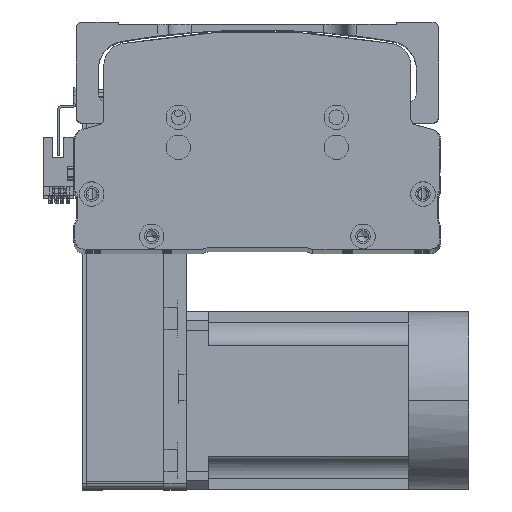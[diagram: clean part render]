
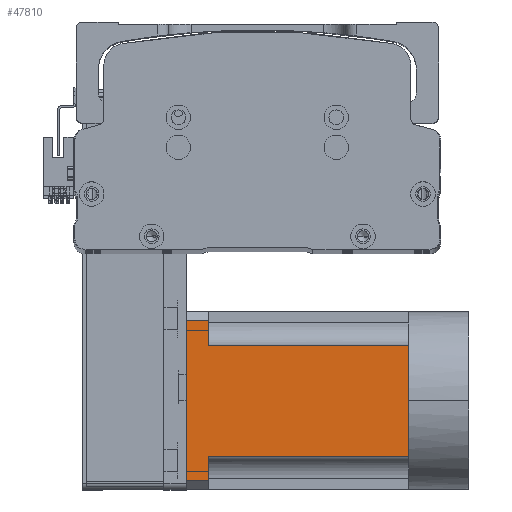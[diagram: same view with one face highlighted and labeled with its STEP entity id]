
A CAD part, top view. The second image highlights one B-rep face of the part: STEP entity #47810.
In plain terms, the highlighted planar face has unit normal (0, 0, 1) as drawn and (0, 0, -1) by its records, which use the part's own axes.
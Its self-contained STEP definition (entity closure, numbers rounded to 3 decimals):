
#79 = CARTESIAN_POINT ( 'NONE',  ( 36., 100., -40. ) ) ;
#288 = DIRECTION ( 'NONE',  ( -1., 0., 0. ) ) ;
#1082 = CARTESIAN_POINT ( 'NONE',  ( -36., 100., -40. ) ) ;
#1729 = CARTESIAN_POINT ( 'NONE',  ( -40., 100., -40. ) ) ;
#2672 = CARTESIAN_POINT ( 'NONE',  ( -36., 90., -40. ) ) ;
#2785 = VERTEX_POINT ( 'NONE', #59408 ) ;
#2818 = DIRECTION ( 'NONE',  ( 0., 1., 0. ) ) ;
#4222 = CARTESIAN_POINT ( 'NONE',  ( 25., -27., -40. ) ) ;
#4652 = VERTEX_POINT ( 'NONE', #34415 ) ;
#5096 = EDGE_CURVE ( 'NONE', #16319, #9083, #10833, .T. ) ;
#5272 = CARTESIAN_POINT ( 'NONE',  ( -40., 90., -40. ) ) ;
#7873 = CARTESIAN_POINT ( 'NONE',  ( -40., 90., -40. ) ) ;
#8722 = ORIENTED_EDGE ( 'NONE', *, *, #5096, .T. ) ;
#9083 = VERTEX_POINT ( 'NONE', #2672 ) ;
#9257 = VECTOR ( 'NONE', #2818, 1000. ) ;
#9560 = EDGE_CURVE ( 'NONE', #44141, #15670, #59196, .T. ) ;
#9599 = CARTESIAN_POINT ( 'NONE',  ( -40., 0., -40. ) ) ;
#10491 = LINE ( 'NONE', #1729, #61886 ) ;
#10833 = LINE ( 'NONE', #7873, #48949 ) ;
#14557 = DIRECTION ( 'NONE',  ( -1., 0., 0. ) ) ;
#15670 = VERTEX_POINT ( 'NONE', #37911 ) ;
#15847 = ORIENTED_EDGE ( 'NONE', *, *, #32643, .T. ) ;
#16319 = VERTEX_POINT ( 'NONE', #52804 ) ;
#16400 = CARTESIAN_POINT ( 'NONE',  ( -40., -27., -40. ) ) ;
#16676 = LINE ( 'NONE', #54969, #28316 ) ;
#16913 = ORIENTED_EDGE ( 'NONE', *, *, #26571, .T. ) ;
#17991 = EDGE_CURVE ( 'NONE', #4652, #2785, #16676, .T. ) ;
#18356 = ORIENTED_EDGE ( 'NONE', *, *, #53166, .T. ) ;
#19828 = CARTESIAN_POINT ( 'NONE',  ( 25., 0., -40. ) ) ;
#20670 = ORIENTED_EDGE ( 'NONE', *, *, #17991, .T. ) ;
#22128 = ORIENTED_EDGE ( 'NONE', *, *, #60292, .F. ) ;
#22907 = ORIENTED_EDGE ( 'NONE', *, *, #62312, .T. ) ;
#26571 = EDGE_CURVE ( 'NONE', #31158, #4652, #36987, .T. ) ;
#27240 = PLANE ( 'NONE',  #36920 ) ;
#27558 = VERTEX_POINT ( 'NONE', #48333 ) ;
#28316 = VECTOR ( 'NONE', #30128, 1000. ) ;
#28737 = LINE ( 'NONE', #4222, #42022 ) ;
#30128 = DIRECTION ( 'NONE',  ( -1., 0., 0. ) ) ;
#30241 = VERTEX_POINT ( 'NONE', #1082 ) ;
#30477 = VECTOR ( 'NONE', #288, 1000. ) ;
#31106 = DIRECTION ( 'NONE',  ( 0., 1., 0. ) ) ;
#31158 = VERTEX_POINT ( 'NONE', #19828 ) ;
#31513 = DIRECTION ( 'NONE',  ( 0., -1., 0. ) ) ;
#32035 = LINE ( 'NONE', #5272, #30477 ) ;
#32226 = DIRECTION ( 'NONE',  ( -1., 0., 0. ) ) ;
#32643 = EDGE_CURVE ( 'NONE', #27558, #31158, #28737, .T. ) ;
#33185 = VECTOR ( 'NONE', #31106, 1000. ) ;
#33565 = EDGE_CURVE ( 'NONE', #9083, #30241, #48956, .T. ) ;
#34415 = CARTESIAN_POINT ( 'NONE',  ( 0., 0., -40. ) ) ;
#35427 = VECTOR ( 'NONE', #14557, 1000. ) ;
#36920 = AXIS2_PLACEMENT_3D ( 'NONE', #16400, #62115, #32226 ) ;
#36987 = LINE ( 'NONE', #9599, #35427 ) ;
#37911 = CARTESIAN_POINT ( 'NONE',  ( 36., 90., -40. ) ) ;
#38808 = ORIENTED_EDGE ( 'NONE', *, *, #33565, .T. ) ;
#42022 = VECTOR ( 'NONE', #44022, 1000. ) ;
#44022 = DIRECTION ( 'NONE',  ( 0., -1., 0. ) ) ;
#44141 = VERTEX_POINT ( 'NONE', #79 ) ;
#45345 = EDGE_LOOP ( 'NONE', ( #22128, #46158, #22907, #15847, #16913, #20670, #18356, #8722, #38808 ) ) ;
#46158 = ORIENTED_EDGE ( 'NONE', *, *, #9560, .T. ) ;
#46447 = LINE ( 'NONE', #50933, #33185 ) ;
#46732 = DIRECTION ( 'NONE',  ( -1., 0., 0. ) ) ;
#47530 = VECTOR ( 'NONE', #31513, 1000. ) ;
#47631 = CARTESIAN_POINT ( 'NONE',  ( -36., -27., -40. ) ) ;
#47810 = ADVANCED_FACE ( 'NONE', ( #54841 ), #27240, .T. ) ;
#48333 = CARTESIAN_POINT ( 'NONE',  ( 25., 90., -40. ) ) ;
#48949 = VECTOR ( 'NONE', #62507, 1000. ) ;
#48956 = LINE ( 'NONE', #47631, #9257 ) ;
#50933 = CARTESIAN_POINT ( 'NONE',  ( -25., -27., -40. ) ) ;
#51553 = CARTESIAN_POINT ( 'NONE',  ( 36., -27., -40. ) ) ;
#52804 = CARTESIAN_POINT ( 'NONE',  ( -25., 90., -40. ) ) ;
#53166 = EDGE_CURVE ( 'NONE', #2785, #16319, #46447, .T. ) ;
#54841 = FACE_OUTER_BOUND ( 'NONE', #45345, .T. ) ;
#54969 = CARTESIAN_POINT ( 'NONE',  ( -40., 0., -40. ) ) ;
#59196 = LINE ( 'NONE', #51553, #47530 ) ;
#59408 = CARTESIAN_POINT ( 'NONE',  ( -25., 0., -40. ) ) ;
#60292 = EDGE_CURVE ( 'NONE', #44141, #30241, #10491, .T. ) ;
#61886 = VECTOR ( 'NONE', #46732, 1000. ) ;
#62115 = DIRECTION ( 'NONE',  ( 0., 0., -1. ) ) ;
#62312 = EDGE_CURVE ( 'NONE', #15670, #27558, #32035, .T. ) ;
#62507 = DIRECTION ( 'NONE',  ( -1., 0., 0. ) ) ;
